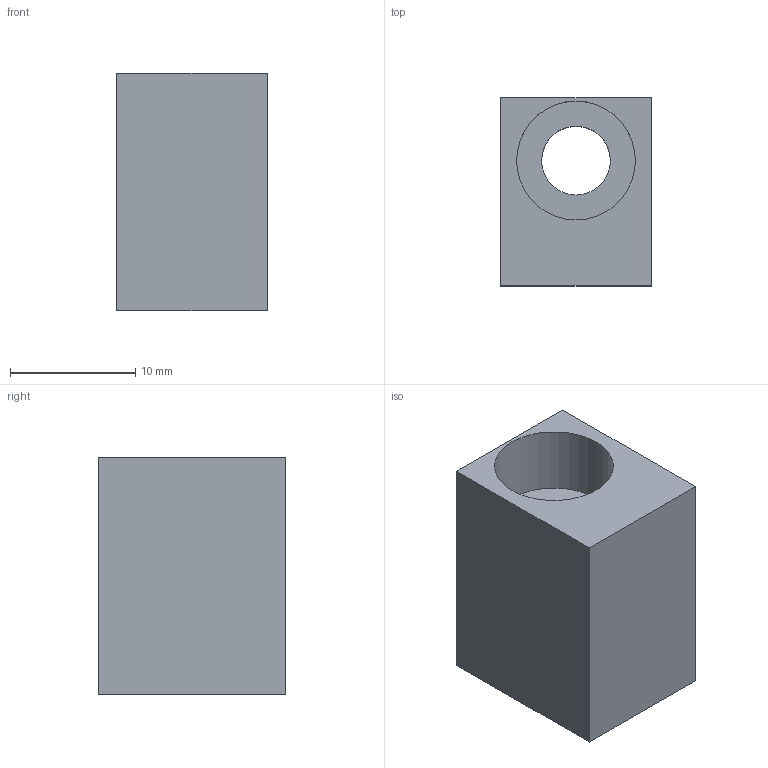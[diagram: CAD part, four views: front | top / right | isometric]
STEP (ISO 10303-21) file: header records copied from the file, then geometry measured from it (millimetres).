
FILE_DESCRIPTION(('Open CASCADE Model'),'2;1');
FILE_NAME('Open CASCADE Shape Model','2026-10-23T08:22:11',('Author'),( 'Open CASCADE'),'Open CASCADE STEP processor 7.9','Open CASCADE 7.9' ,'Unknown');
FILE_SCHEMA(('AUTOMOTIVE_DESIGN { 1 0 10303 214 1 1 1 1 }'));
Length unit declared in the file: millimetre
Products named in the file (1): Open CASCADE STEP translator 7.9 3
Bounding box: 12 x 15 x 19 mm (x, y, z)
Volume: 2709.4 mm3; surface area: 1735.9 mm2
Topology: 1 solids, 1 shells, 9 faces, 18 edges, 12 vertices
Faces by surface type: plane 7, cylinder 2
Full cylindrical faces by diameter (mm): 5.5 x1, 9.5 x1
Entity records: 484 total; most frequent: DIRECTION 78, CARTESIAN_POINT 76, LINE 46, VECTOR 46, ORIENTED_EDGE 36, PCURVE 36, DEFINITIONAL_REPRESENTATION 36, EDGE_CURVE 18
